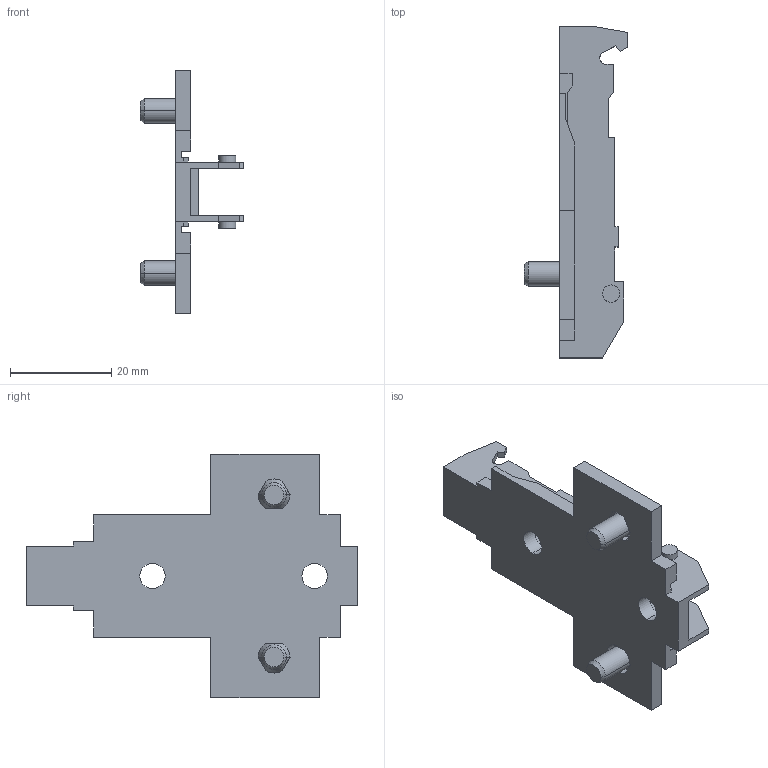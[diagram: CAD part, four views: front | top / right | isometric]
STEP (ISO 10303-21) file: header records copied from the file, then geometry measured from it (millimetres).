
FILE_DESCRIPTION (( 'STEP AP214' ), '1' );
FILE_NAME ('1D_Kreuzmontageplatte 28_32_Euro_vorgestellt 10_3.step', '2010-11-18T10:19:52', ( 'grass' ), ( '' ), 'SwSTEP 2.0', 'SolidWorks 2010', '' );
FILE_SCHEMA (( 'AUTOMOTIVE_DESIGN' ));
Length unit declared in the file: millimetre
Products named in the file (1): 1D_Kreuzmontageplatte 28_32_Euro_vorgestellt 10_3
Bounding box: 20.5 x 65.5 x 48 mm (x, y, z)
Volume: 6808.1 mm3; surface area: 7324.3 mm2
Topology: 1 solids, 1 shells, 138 faces, 390 edges, 254 vertices
Faces by surface type: plane 92, cylinder 34, cone 12
Entity records: 4550 total; most frequent: CARTESIAN_POINT 873, ORIENTED_EDGE 780, DIRECTION 730, EDGE_CURVE 390, LINE 292, VECTOR 292, VERTEX_POINT 254, AXIS2_PLACEMENT_3D 219
